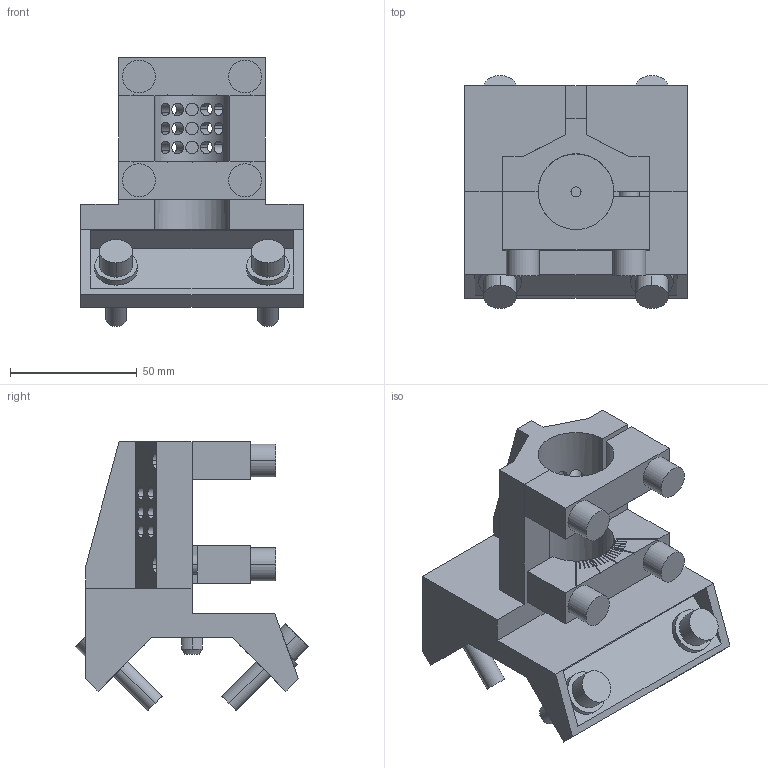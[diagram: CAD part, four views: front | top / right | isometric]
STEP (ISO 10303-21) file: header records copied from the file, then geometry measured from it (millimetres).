
FILE_DESCRIPTION(('STEP AP214'),'1');
FILE_NAME('EGT103_1705075_80RD30_L90.CATPart.stp','2015-09-14T13:07:57',('3D-Tool'),(' '),'Spatial InterOp 3D',' ',' ');
FILE_SCHEMA(('automotive_design'));
Length unit declared in the file: millimetre
Products named in the file (8): EGT103_1705075_80RD30_L90|EGT103_80RD30_L90|Bohrbearbeitung; 1; 2; 3; 4; 5; 6; EGT103_1705075_80RD30_L90|EGT212_ZENTRIERSTIFT|Chamfer.1
Bounding box: 88 x 92.04 x 106.22 mm (x, y, z)
Volume: 206118.4 mm3; surface area: 66339 mm2
Topology: 8 solids, 8 shells, 375 faces, 1002 edges, 666 vertices
Faces by surface type: plane 217, cylinder 156, cone 2
Entity records: 16635 total; most frequent: CARTESIAN_POINT 4102, ORIENTED_EDGE 2004, DIRECTION 1842, EDGE_CURVE 1002, VERTEX_POINT 666, AXIS2_PLACEMENT_3D 646, LINE 550, VECTOR 550
